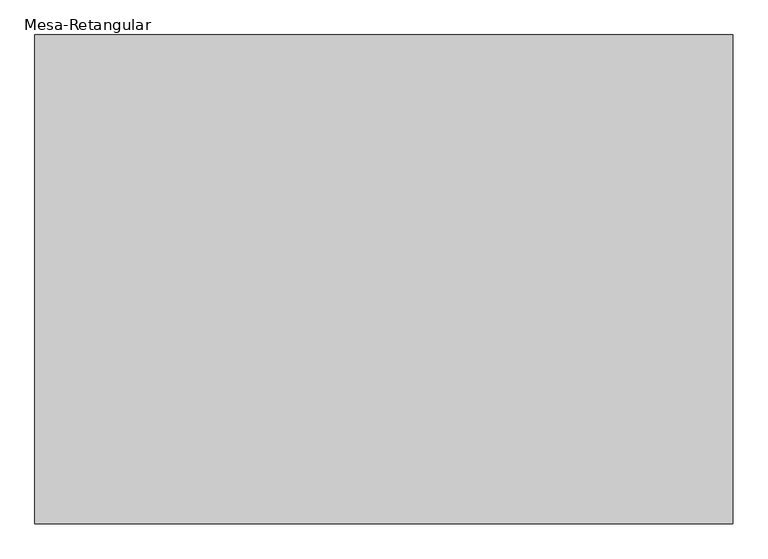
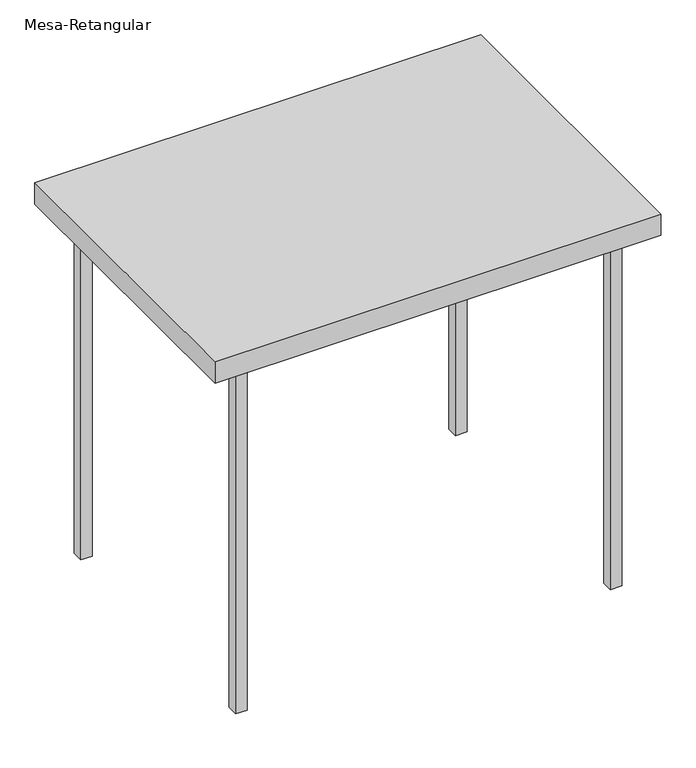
"""IFC4 building model written with IfcOpenShell, lengths in millimetres: furniture geometry, Mesa-Retangular : Mesa aço inox 45x95cm 88AL 5."""

import ifcopenshell
import ifcopenshell.guid

model = None  # the IFC model being written
_history = None  # IfcOwnerHistory: only IFC2X3 demands one
_inside = {}  # id of a spatial element -> (the spatial element, [elements in it])
_under = {}  # id of a project, library or spatial element -> (it, [spatial elements below it])
_declared = {}  # id of a project -> (the project, [libraries it declares])
_typed = {}  # id of a type object -> (the type object, [elements of that type])
_made_of = {}  # id of a material, layer set ... -> (it, [elements and type objects made of it])


def new_model(schema):
    """Start an empty IFC model of exactly this schema.

    Asked for "IFC4X3", IfcOpenShell would pick the latest addendum, in which some entities
    have other attributes; the version numbers below select the first issue.
    IFC2X3 requires an IfcOwnerHistory on every rooted entity: one is made here for all.
    """
    global model, _history
    if schema == "IFC4X3":
        model = ifcopenshell.file(schema_version=(4, 3, 0, 0))
    else:
        model = ifcopenshell.file(schema=schema)
    _inside.clear()
    _under.clear()
    _declared.clear()
    _typed.clear()
    _made_of.clear()
    _history = None
    if model.schema == "IFC2X3":
        org = make("IfcOrganization", Name="unknown")
        user = make(
            "IfcPersonAndOrganization",
            ThePerson=make("IfcPerson", FamilyName="unknown"),
            TheOrganization=org,
        )
        app = make(
            "IfcApplication",
            ApplicationDeveloper=org,
            Version="unknown",
            ApplicationFullName="unknown",
            ApplicationIdentifier="unknown",
        )
        _history = make(
            "IfcOwnerHistory",
            OwningUser=user,
            OwningApplication=app,
            ChangeAction="ADDED",
            CreationDate=0,
        )
    return model


def make(cls, **values):
    """One entity of the class cls with the attributes given. An attribute that is None is left unset."""
    return model.create_entity(
        cls, **{name: value for name, value in values.items() if value is not None}
    )


def rooted(cls, **values):
    """An entity with a GlobalId (a new one), such as an element, a storey or a relation."""
    return make(cls, GlobalId=ifcopenshell.guid.new(), OwnerHistory=_history, **values)


def si_unit(unit_type, name, prefix=None):
    """IfcSIUnit, for example si_unit("LENGTHUNIT", "METRE", prefix="MILLI")."""
    return make("IfcSIUnit", UnitType=unit_type, Prefix=prefix, Name=name)


def assignment(units):
    """IfcUnitAssignment: the units of a project."""
    return None if units is None else make("IfcUnitAssignment", Units=units)


def point(xyz):
    """IfcCartesianPoint."""
    return None if xyz is None else make("IfcCartesianPoint", Coordinates=xyz)


def direction(xyz):
    """IfcDirection."""
    return None if xyz is None else make("IfcDirection", DirectionRatios=xyz)


def frame(location, z_axis=None, x_axis=None):
    """IfcAxis2Placement3D, a coordinate frame: its origin and axes. An axis left out is left unset."""
    return make(
        "IfcAxis2Placement3D",
        Location=point(location),
        Axis=direction(z_axis),
        RefDirection=direction(x_axis),
    )


def origin():
    """The frame at (0, 0, 0) with its axes left unset."""
    return frame((0.0, 0.0, 0.0))


def origin_with_axes():
    """The frame at (0, 0, 0) with the z axis (0, 0, 1) and the x axis (1, 0, 0) written out."""
    return frame((0.0, 0.0, 0.0), z_axis=(0.0, 0.0, 1.0), x_axis=(1.0, 0.0, 0.0))


def place(relative_to, where):
    """IfcLocalPlacement: puts the frame where relative to a parent placement (None: the world)."""
    return make(
        "IfcLocalPlacement", PlacementRelTo=relative_to, RelativePlacement=where
    )


def context(
    kind, dimensions, precision=None, world=None, true_north=None, identifier=None
):
    """IfcGeometricRepresentationContext, for example the 3D "Model" context."""
    return make(
        "IfcGeometricRepresentationContext",
        ContextIdentifier=identifier,
        ContextType=kind,
        CoordinateSpaceDimension=dimensions,
        Precision=precision,
        WorldCoordinateSystem=world,
        TrueNorth=true_north,
    )


def project(units=None, contexts=None):
    """IfcProject with its units and contexts."""
    return rooted(
        "IfcProject",
        Name="project",
        RepresentationContexts=contexts,
        UnitsInContext=assignment(units),
    )


def spatial(cls, under=None, at=None, **own):
    """A site, building, storey or space (cls), placed at a placement, below another one or the project."""
    s = rooted(cls, ObjectPlacement=at, **own)
    if under is not None:
        _under.setdefault(under.id(), (under, []))[1].append(s)
    return s


def polyline(points):
    """IfcPolyline through the points."""
    return make("IfcPolyline", Points=[point(p) for p in points])


def outline(outer, holes=None, kind="AREA"):
    """IfcArbitraryClosedProfileDef: a profile drawn as a closed curve; with holes, ...WithVoids."""
    if holes is None:
        return make("IfcArbitraryClosedProfileDef", ProfileType=kind, OuterCurve=outer)
    return make(
        "IfcArbitraryProfileDefWithVoids",
        ProfileType=kind,
        OuterCurve=outer,
        InnerCurves=holes,
    )


def extrude(swept, where, along, depth):
    """IfcExtrudedAreaSolid: the profile swept, set in the frame where, extruded along a direction by depth."""
    return make(
        "IfcExtrudedAreaSolid",
        SweptArea=swept,
        Position=where,
        ExtrudedDirection=direction(along),
        Depth=depth,
    )


def shape(context_of_items, identifier, shape_type, items):
    """IfcShapeRepresentation: the items that make up one representation, for example the "Body"."""
    return make(
        "IfcShapeRepresentation",
        ContextOfItems=context_of_items,
        RepresentationIdentifier=identifier,
        RepresentationType=shape_type,
        Items=items,
    )


def source(mapping_origin, context_of_items, identifier, shape_type, items):
    """IfcRepresentationMap: a shape defined once, which mapped items show again and again."""
    return make(
        "IfcRepresentationMap",
        MappingOrigin=mapping_origin,
        MappedRepresentation=shape(context_of_items, identifier, shape_type, items),
    )


def transform(
    local_origin,
    x_axis=None,
    y_axis=None,
    z_axis=None,
    scale=None,
    scale2=None,
    scale3=None,
    uniform=True,
):
    """IfcCartesianTransformationOperator3D, or its non-uniform kind. x_axis, y_axis, z_axis: its Axis1, 2, 3."""
    if uniform:
        return make(
            "IfcCartesianTransformationOperator3D",
            Axis1=direction(x_axis),
            Axis2=direction(y_axis),
            LocalOrigin=point(local_origin),
            Scale=scale,
            Axis3=direction(z_axis),
        )
    return make(
        "IfcCartesianTransformationOperator3DnonUniform",
        Axis1=direction(x_axis),
        Axis2=direction(y_axis),
        LocalOrigin=point(local_origin),
        Scale=scale,
        Axis3=direction(z_axis),
        Scale2=scale2,
        Scale3=scale3,
    )


def mapped(mapping_source, mapping_target):
    """IfcMappedItem: shows the shape of a source again, moved by a transform."""
    return make(
        "IfcMappedItem", MappingSource=mapping_source, MappingTarget=mapping_target
    )


def made_of(thing, what):
    """Note that an element or type object is made of a material, layer set ...; save() writes the relation."""
    if what is not None:
        _made_of.setdefault(what.id(), (what, []))[1].append(thing)
    return thing


def element(
    cls,
    number,
    at=None,
    inside=None,
    cuts=None,
    type_object=None,
    material=None,
    context=None,
    identifier="Body",
    shape_type=None,
    held_by="IfcProductDefinitionShape",
    body=None,
    shapes=None,
    **own,
):
    """One element of the class cls, such as IfcWall. Its Tag is "e" and its number.

    at: its placement. inside: the storey or other place that contains it. cuts: it is an
    opening in that element (IfcRelVoidsElement). A single representation is given by context,
    identifier, shape_type and body (its items); several are given by shapes. held_by: the class
    of the entity that holds the representations. save() writes the other relations.
    """
    e = rooted(cls, Tag="e%d" % number, ObjectPlacement=at, **own)
    if body is not None:
        shapes = [shape(context, identifier, shape_type, body)]
    if shapes is not None:
        e.Representation = make(held_by, Representations=shapes)
    if inside is not None:
        _inside.setdefault(inside.id(), (inside, []))[1].append(e)
    if cuts is not None:
        rooted(
            "IfcRelVoidsElement", RelatingBuildingElement=cuts, RelatedOpeningElement=e
        )
    if type_object is not None:
        _typed.setdefault(type_object.id(), (type_object, []))[1].append(e)
    return made_of(e, material)


def aggregate(whole, parts):
    """IfcRelAggregates: a whole, such as a stair, and the parts it consists of."""
    return rooted("IfcRelAggregates", RelatingObject=whole, RelatedObjects=parts)


def save(model, path):
    """Write the relations noted so far, then the file.

    IfcRelAggregates (storeys below a building ...), IfcRelContainedInSpatialStructure (elements
    in a storey), IfcRelDefinesByType, IfcRelAssociatesMaterial and IfcRelDeclares: one each for
    every whole, place, type object, material and project.
    """
    for whole, parts in _under.values():
        aggregate(whole, parts)
    for where, things in _inside.values():
        rooted(
            "IfcRelContainedInSpatialStructure",
            RelatedElements=things,
            RelatingStructure=where,
        )
    for kind, things in _typed.values():
        rooted("IfcRelDefinesByType", RelatedObjects=things, RelatingType=kind)
    for what, things in _made_of.values():
        rooted("IfcRelAssociatesMaterial", RelatedObjects=things, RelatingMaterial=what)
    for by, libraries in _declared.values():
        rooted("IfcRelDeclares", RelatingContext=by, RelatedDefinitions=libraries)
    model.write(path)


def mesa_retangular_789179a3(model_context):
    return source(origin(), model_context, "Body", "SweptSolid", [
        extrude(outline(polyline([(-432.8946305, 288.2145104), (-432.8946305, 313.6145104), (-407.4946305, 313.6145104), (-407.4946305, 288.2145104), (-432.8946305, 288.2145104)])), origin_with_axes(), (0.0, 0.0, 1.0), 829.2),
        extrude(outline(polyline([(-432.8946305, -288.2145104), (-407.4946305, -288.2145104), (-407.4946305, -313.6145104), (-432.8946305, -313.6145104), (-432.8946305, -288.2145104)])), origin_with_axes(), (0.0, 0.0, 1.0), 829.2),
        extrude(outline(polyline([(432.8946305, 288.2145104), (407.4946305, 288.2145104), (407.4946305, 313.6145104), (432.8946305, 313.6145104), (432.8946305, 288.2145104)])), origin_with_axes(), (0.0, 0.0, 1.0), 829.2),
        extrude(outline(polyline([(432.8946305, -288.2145104), (432.8946305, -313.6145104), (407.4946305, -313.6145104), (407.4946305, -288.2145104), (432.8946305, -288.2145104)])), origin_with_axes(), (0.0, 0.0, 1.0), 829.2),
        extrude(outline(polyline([(500.0, 350.0), (500.0, -350.0), (-500.0, -350.0), (-500.0, 350.0), (500.0, 350.0)])), frame((0.0, 0.0, 829.2), z_axis=(0.0, 0.0, 1.0), x_axis=(1.0, 0.0, 0.0)), (0.0, 0.0, 1.0), 50.8),
    ])


if __name__ == "__main__":
    model = new_model("IFC4")
    model_context = context("Model", 3, world=origin())
    ifc_project = project(units=[si_unit("LENGTHUNIT", "METRE", prefix="MILLI")], contexts=[model_context])
    site = spatial("IfcSite", under=ifc_project)
    building = spatial("IfcBuilding", under=site)
    placement = place(None, origin())
    mesa_retangular_shape = mesa_retangular_789179a3(model_context)
    element("IfcFurniture", 1, ObjectType="Mesa-Retangular : Mesa aço inox 45x95cm 88AL 5", at=placement, inside=building, context=model_context, shape_type="MappedRepresentation", body=[
        mapped(mesa_retangular_shape, transform((0.0, 0.0, 0.0), x_axis=(1.0, 0.0, 0.0), y_axis=(0.0, 1.0, 0.0), z_axis=(0.0, 0.0, 1.0))),
    ])
    save(model, "model.ifc")
